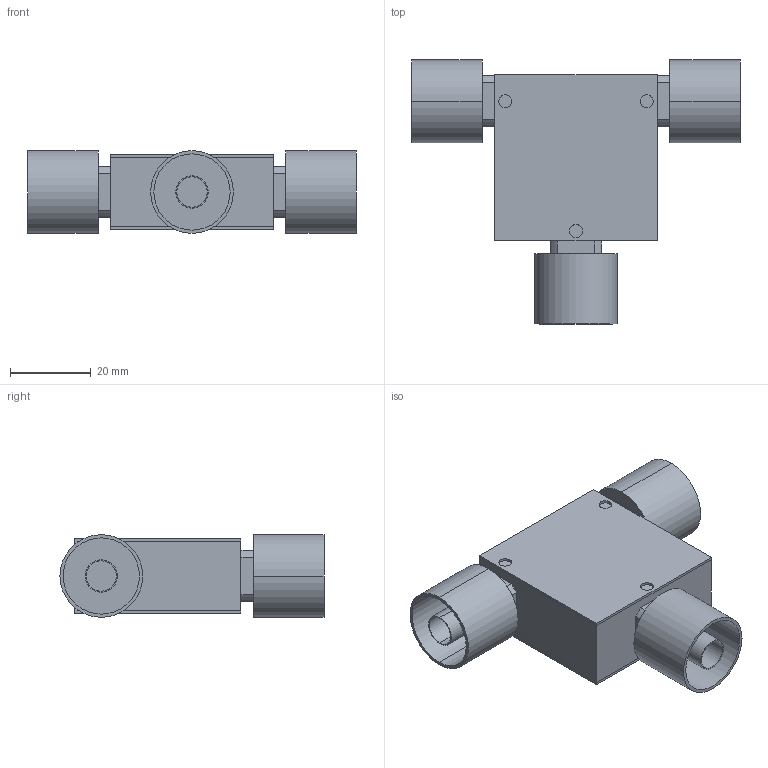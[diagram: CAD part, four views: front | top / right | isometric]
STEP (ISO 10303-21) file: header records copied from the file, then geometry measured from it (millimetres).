
FILE_DESCRIPTION (( 'STEP AP214' ), '1' );
FILE_NAME ('Package 7 Circ MMM Type-N.step', '2021-12-01T21:01:41', ( '' ), ( '' ), 'SwSTEP 2.0', 'SolidWorks 2016', '' );
FILE_SCHEMA (( 'AUTOMOTIVE_DESIGN' ));
Length unit declared in the file: inch
Products named in the file (4): Delta Type N Male, 0.5in flange; Package 7; Package Size 7; Package 7 Circ MMM Type-N
Assembly tree (5 placements, depth 2):
  Package 7 Circ MMM Type-N
    Package Size 7
    Package 7
    Delta Type N Male, 0.5in flange  x3
Bounding box: 81.28 x 65.34 x 20.45 mm (x, y, z)
Volume: 36540.9 mm3; surface area: 25062.2 mm2
Topology: 5 solids, 5 shells, 130 faces, 288 edges, 192 vertices
Faces by surface type: cylinder 72, plane 58
Entity records: 2006 total; most frequent: DIRECTION 348, CARTESIAN_POINT 310, ORIENTED_EDGE 288, EDGE_CURVE 144, AXIS2_PLACEMENT_3D 134, VERTEX_POINT 96, EDGE_LOOP 82, LINE 80
